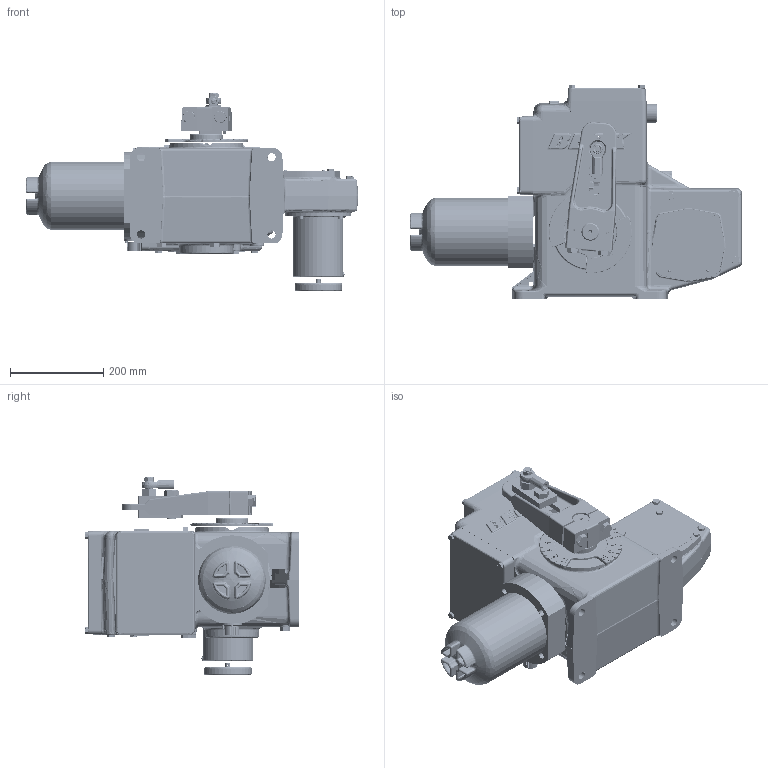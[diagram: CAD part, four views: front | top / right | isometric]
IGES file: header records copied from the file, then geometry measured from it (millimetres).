
Start section: SolidWorks IGES file using analytic representation for surfaces
Global section: file name: N:\Engineering\Product Support\Outline Dimension Models\11E-200\18-0200-03.IGS; native system: SolidWorks 2013; preprocessor: SolidWorks 2013; author: jmack; date: 140109.105929; units: inch
Bounding box: 710.83 x 456.9 x 424.92 mm (x, y, z)
Surface area: 1248854.5 mm2 (no closed solid volume)
Topology: 0 solids, 0 shells, 2237 faces, 36040 edges, 35938 vertices
Faces by surface type: bspline 1269, revolution 968
